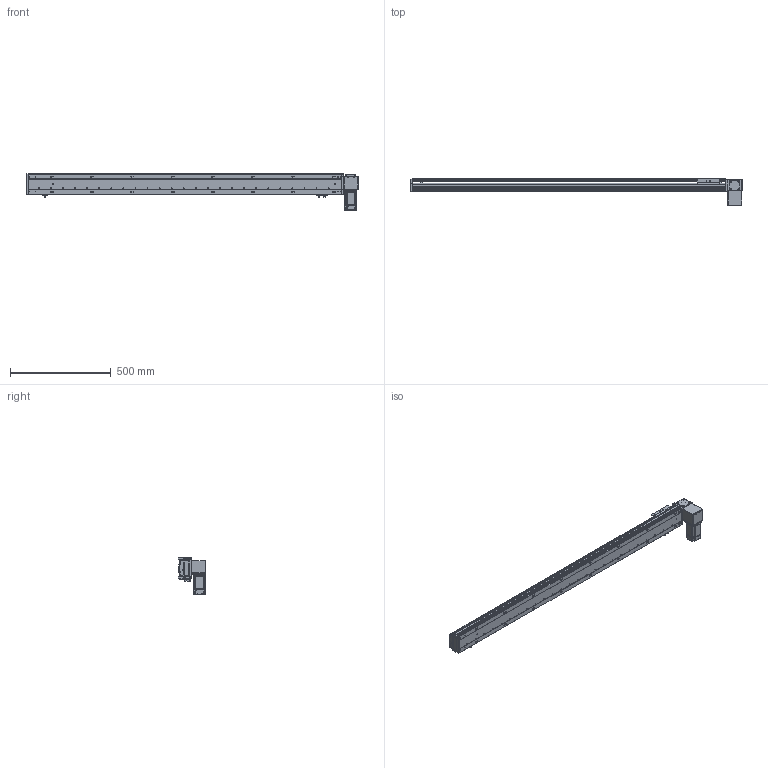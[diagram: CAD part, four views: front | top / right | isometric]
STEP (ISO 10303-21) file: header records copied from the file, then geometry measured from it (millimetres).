
FILE_DESCRIPTION (( 'STEP AP203' ), '1' );
FILE_NAME ('RY100-T-300-DL.SLDASM_1350.step', '2024-04-24T01:11:58', ( '盈信电脑' ), ( '东莞市道滘镇水果街19号' ), 'SwSTEP 2.0', 'SolidWorks 2016', '' );
FILE_SCHEMA (( 'CONFIG_CONTROL_DESIGN' ));
Length unit declared in the file: millimetre
Products named in the file (16): RY100-T翋肮祭謫粣; RY100-T-300-RK倰第奻裔_1350; RY100-T粣創揤踡裔; RY100-T-300-DL.SLDASM_1350; RY100-T-300-RK倰第菁釱_1350; RY100-T左右折电机安装板; RY100-T肮祭謫臏賑輸; RY100-T肮祭謫翋盓傅釱; RY100俋离覜茼え; 滅袉蝶18-10; RY80-T肮祭謫狟殏俋欶; 覜茼ん672; RY100-T翋肮祭謫裔啣2; 1; RY100綴裔啣; RY100-T翋肮祭謫裔啣
Assembly tree (18 placements, depth 2):
  RY100-T-300-DL.SLDASM_1350
    RY100-T-300-RK倰第菁釱_1350
    RY100-T-300-RK倰第奻裔_1350
    RY100-T肮祭謫臏賑輸
    RY100綴裔啣
    覜茼ん672  x3
    RY100俋离覜茼え
    RY100-T翋肮祭謫粣
    RY100-T肮祭謫翋盓傅釱
    滅袉蝶18-10  x2
    RY100-T翋肮祭謫裔啣
    1
    RY100-T左右折电机安装板
    RY100-T粣創揤踡裔
    RY100-T翋肮祭謫裔啣2
    RY80-T肮祭謫狟殏俋欶
Bounding box: 1650 x 135.5 x 182.5 mm (x, y, z)
Volume: 3202153.3 mm3; surface area: 1333715.7 mm2
Topology: 18 solids, 18 shells, 2261 faces, 6274 edges, 4074 vertices
Faces by surface type: plane 1215, cylinder 827, cone 141, bspline 78
Entity records: 73001 total; most frequent: CARTESIAN_POINT 17568, ORIENTED_EDGE 11380, DIRECTION 10878, EDGE_CURVE 5690, VERTEX_POINT 3742, LINE 3652, VECTOR 3652, AXIS2_PLACEMENT_3D 3613
